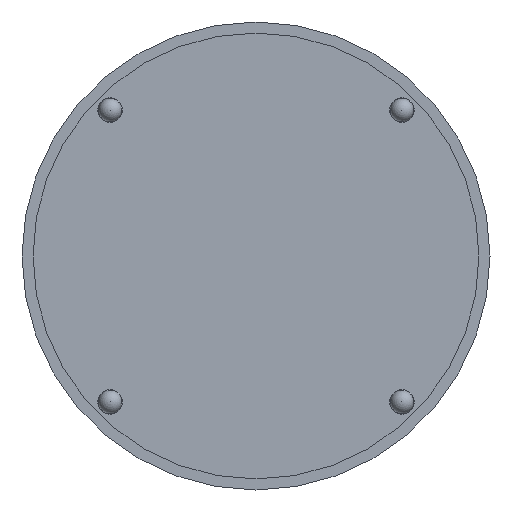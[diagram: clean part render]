
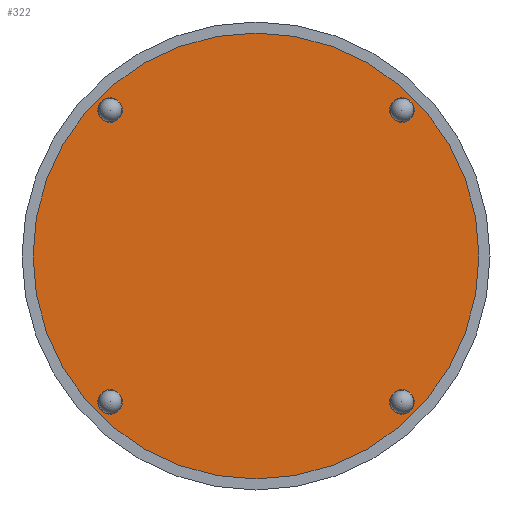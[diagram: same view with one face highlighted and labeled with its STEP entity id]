
A CAD part, front view. The second image highlights one B-rep face of the part: STEP entity #322.
In plain terms, the highlighted planar face has unit normal (0, -1, 0).
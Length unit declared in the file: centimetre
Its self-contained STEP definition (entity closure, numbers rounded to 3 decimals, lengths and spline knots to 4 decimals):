
#55=FACE_BOUND('',#135,.T.);
#56=FACE_BOUND('',#136,.T.);
#57=FACE_BOUND('',#137,.T.);
#58=FACE_BOUND('',#138,.T.);
#86=FACE_OUTER_BOUND('',#134,.T.);
#134=EDGE_LOOP('',(#274));
#135=EDGE_LOOP('',(#275));
#136=EDGE_LOOP('',(#276));
#137=EDGE_LOOP('',(#277));
#138=EDGE_LOOP('',(#278));
#152=CIRCLE('',#338,0.5);
#157=CIRCLE('',#348,0.5);
#162=CIRCLE('',#358,0.5);
#165=CIRCLE('',#364,0.5);
#171=CIRCLE('',#377,10.1);
#180=VERTEX_POINT('',#518);
#185=VERTEX_POINT('',#533);
#190=VERTEX_POINT('',#548);
#193=VERTEX_POINT('',#557);
#199=VERTEX_POINT('',#576);
#208=EDGE_CURVE('',#180,#180,#152,.T.);
#213=EDGE_CURVE('',#185,#185,#157,.T.);
#218=EDGE_CURVE('',#190,#190,#162,.T.);
#221=EDGE_CURVE('',#193,#193,#165,.T.);
#227=EDGE_CURVE('',#199,#199,#171,.T.);
#274=ORIENTED_EDGE('',*,*,#227,.T.);
#275=ORIENTED_EDGE('',*,*,#208,.T.);
#276=ORIENTED_EDGE('',*,*,#213,.T.);
#277=ORIENTED_EDGE('',*,*,#218,.T.);
#278=ORIENTED_EDGE('',*,*,#221,.T.);
#294=PLANE('',#379);
#322=ADVANCED_FACE('',(#86,#55,#56,#57,#58),#294,.T.);
#338=AXIS2_PLACEMENT_3D('',#519,#404,#405);
#348=AXIS2_PLACEMENT_3D('',#534,#424,#425);
#358=AXIS2_PLACEMENT_3D('',#549,#444,#445);
#364=AXIS2_PLACEMENT_3D('',#558,#456,#457);
#377=AXIS2_PLACEMENT_3D('',#577,#482,#483);
#379=AXIS2_PLACEMENT_3D('',#580,#486,#487);
#404=DIRECTION('center_axis',(0.,1.,0.));
#405=DIRECTION('ref_axis',(0.,0.,-1.));
#424=DIRECTION('center_axis',(0.,1.,0.));
#425=DIRECTION('ref_axis',(1.,0.,0.));
#444=DIRECTION('center_axis',(0.,1.,0.));
#445=DIRECTION('ref_axis',(0.,0.,
1.));
#456=DIRECTION('center_axis',(0.,1.,0.));
#457=DIRECTION('ref_axis',(-1.,0.,0.));
#482=DIRECTION('center_axis',(0.,-1.,0.));
#483=DIRECTION('ref_axis',(-1.,0.,0.));
#486=DIRECTION('center_axis',(0.,-1.,0.));
#487=DIRECTION('ref_axis',(0.,0.,1.));
#518=CARTESIAN_POINT('',(6.6114,-29.25,7.1114));
#519=CARTESIAN_POINT('Origin',(6.6114,-29.25,6.6114));
#533=CARTESIAN_POINT('',(-7.1114,-29.25,6.6114));
#534=CARTESIAN_POINT('Origin',(-6.6114,-29.25,6.6114));
#548=CARTESIAN_POINT('',(-6.6114,-29.25,-7.1114));
#549=CARTESIAN_POINT('Origin',(-6.6114,-29.25,-6.6114));
#557=CARTESIAN_POINT('',(7.1114,-29.25,-6.6114));
#558=CARTESIAN_POINT('Origin',(6.6114,-29.25,-6.6114));
#576=CARTESIAN_POINT('',(10.1,-29.25,0.));
#577=CARTESIAN_POINT('Origin',(0.,-29.25,0.));
#580=CARTESIAN_POINT('Origin',(0.,-29.25,0.));
